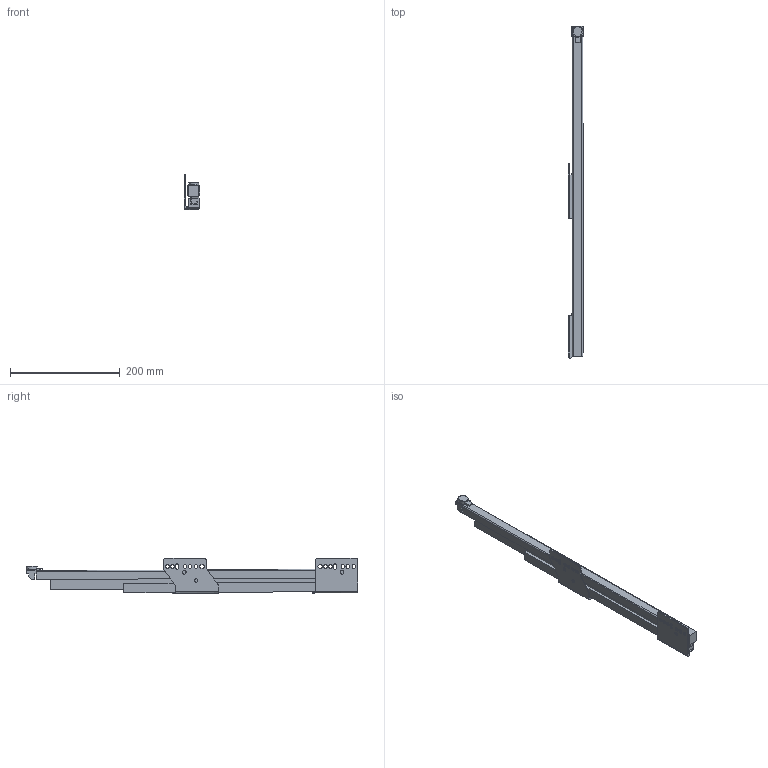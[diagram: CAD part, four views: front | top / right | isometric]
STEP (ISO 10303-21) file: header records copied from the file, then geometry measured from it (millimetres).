
FILE_DESCRIPTION (( 'STEP AP214' ), '1' );
FILE_NAME ('_IMOS_NOVA-Pro_KS_TL_EB29mm_LI_NL600.step', '2010-07-15T11:34:59', ( 'grass' ), ( '' ), 'SwSTEP 2.0', 'SolidWorks 2009', '' );
FILE_SCHEMA (( 'AUTOMOTIVE_DESIGN' ));
Length unit declared in the file: millimetre
Products named in the file (1): _IMOS_NOVA-Pro_KS_TL_EB29mm_LI_NL600
Bounding box: 27.9 x 605.55 x 64.46 mm (x, y, z)
Volume: 424443.3 mm3; surface area: 176899.3 mm2
Topology: 8 solids, 8 shells, 185 faces, 496 edges, 328 vertices
Faces by surface type: plane 116, cylinder 64, torus 5
Entity records: 5964 total; most frequent: CARTESIAN_POINT 1097, ORIENTED_EDGE 992, DIRECTION 972, EDGE_CURVE 496, LINE 350, VECTOR 350, VERTEX_POINT 328, AXIS2_PLACEMENT_3D 311
